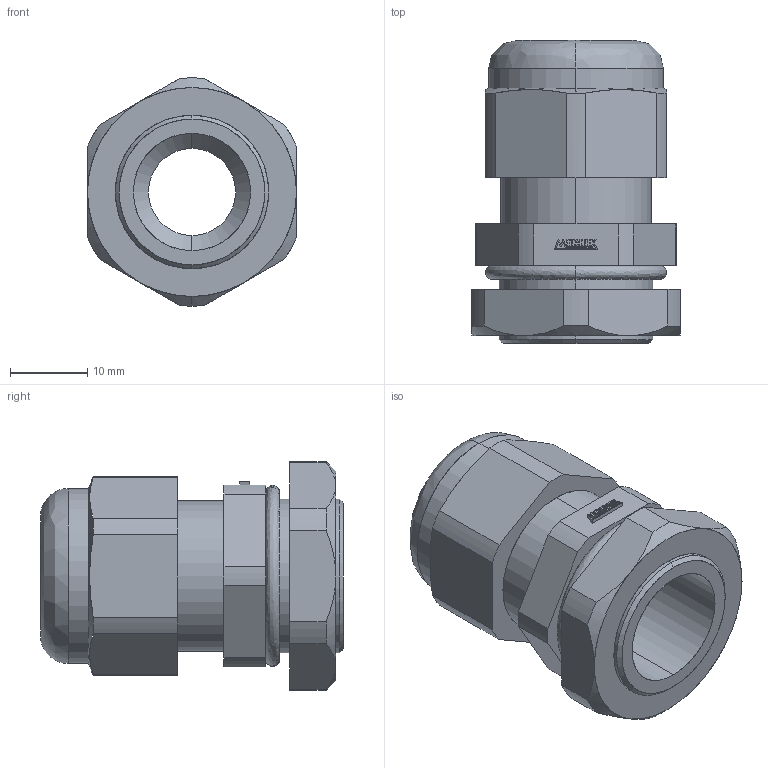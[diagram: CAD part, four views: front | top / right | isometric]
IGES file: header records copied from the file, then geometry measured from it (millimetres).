
Start section: SolidWorks IGES file using analytic representation for surfaces
Global section: file name: D:\X - Arquivos\PROEX\Empresas\P11 - METALTEX\01 - Produtos\IGES\Terceira remessa\Etapa 2\CH-M20.IGS; native system: SolidWorks 2012; preprocessor: SolidWorks 2012; author: Usuario; date: 180207.124616; units: millimetre
Bounding box: 27.1 x 39.3 x 29.6 mm (x, y, z)
Surface area: 6336.7 mm2 (no closed solid volume)
Topology: 0 solids, 0 shells, 174 faces, 1318 edges, 1318 vertices
Faces by surface type: bspline 125, revolution 49
